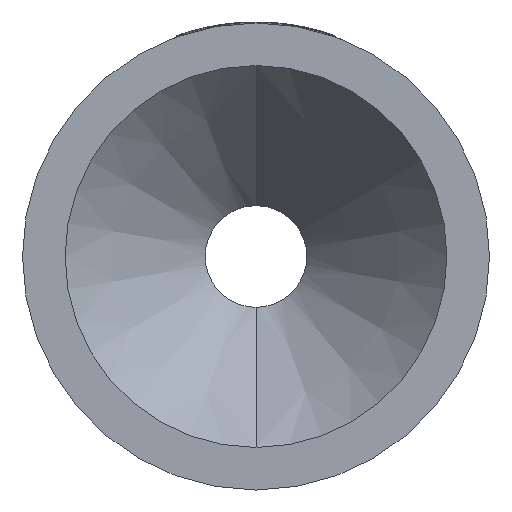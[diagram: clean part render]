
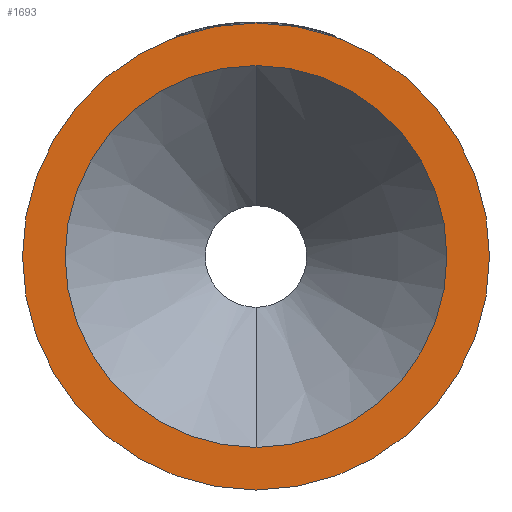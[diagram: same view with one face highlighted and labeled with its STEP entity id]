
A CAD part, left-side view. The second image highlights one B-rep face of the part: STEP entity #1693.
In plain terms, the highlighted planar face has unit normal (-1, 0, 0).
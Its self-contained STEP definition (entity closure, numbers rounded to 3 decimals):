
#95 = FACE_BOUND ( 'NONE', #1895, .T. ) ;
#183 = CARTESIAN_POINT ( 'NONE',  ( 0., 0., -112.5 ) ) ;
#236 = AXIS2_PLACEMENT_3D ( 'NONE', #3203, #3181, #3179 ) ;
#296 = CIRCLE ( 'NONE', #1349, 112.5 ) ;
#396 = CIRCLE ( 'NONE', #3370, 112.5 ) ;
#720 = AXIS2_PLACEMENT_3D ( 'NONE', #960, #1990, #3267 ) ;
#799 = ORIENTED_EDGE ( 'NONE', *, *, #1094, .T. ) ;
#880 = EDGE_LOOP ( 'NONE', ( #1912, #799 ) ) ;
#960 = CARTESIAN_POINT ( 'NONE',  ( 0., 0., 0. ) ) ;
#1094 = EDGE_CURVE ( 'NONE', #1860, #1568, #396, .T. ) ;
#1113 = VERTEX_POINT ( 'NONE', #1808 ) ;
#1349 = AXIS2_PLACEMENT_3D ( 'NONE', #1404, #1387, #1367 ) ;
#1367 = DIRECTION ( 'NONE',  ( 0., 0., 1. ) ) ;
#1387 = DIRECTION ( 'NONE',  ( -1., 0., 0. ) ) ;
#1404 = CARTESIAN_POINT ( 'NONE',  ( 0., 0., 0. ) ) ;
#1568 = VERTEX_POINT ( 'NONE', #3027 ) ;
#1693 = ADVANCED_FACE ( 'NONE', ( #95, #2767 ), #1803, .F. ) ;
#1725 = DIRECTION ( 'NONE',  ( 0., 0., -1. ) ) ;
#1737 = DIRECTION ( 'NONE',  ( 1., 0., 0. ) ) ;
#1742 = CARTESIAN_POINT ( 'NONE',  ( 0., 92., 0. ) ) ;
#1779 = DIRECTION ( 'NONE',  ( 0., 0., 1. ) ) ;
#1792 = DIRECTION ( 'NONE',  ( -1., 0., 0. ) ) ;
#1798 = CARTESIAN_POINT ( 'NONE',  ( 0., 0., 0. ) ) ;
#1803 = PLANE ( 'NONE',  #3504 ) ;
#1808 = CARTESIAN_POINT ( 'NONE',  ( 0., 0., -92. ) ) ;
#1860 = VERTEX_POINT ( 'NONE', #183 ) ;
#1895 = EDGE_LOOP ( 'NONE', ( #2791, #3358 ) ) ;
#1912 = ORIENTED_EDGE ( 'NONE', *, *, #1979, .T. ) ;
#1979 = EDGE_CURVE ( 'NONE', #1568, #1860, #296, .T. ) ;
#1990 = DIRECTION ( 'NONE',  ( -1., 0., 0. ) ) ;
#2031 = EDGE_CURVE ( 'NONE', #2339, #1113, #3313, .T. ) ;
#2224 = EDGE_CURVE ( 'NONE', #1113, #2339, #2717, .T. ) ;
#2339 = VERTEX_POINT ( 'NONE', #2825 ) ;
#2717 = CIRCLE ( 'NONE', #236, 92. ) ;
#2767 = FACE_OUTER_BOUND ( 'NONE', #880, .T. ) ;
#2791 = ORIENTED_EDGE ( 'NONE', *, *, #2031, .F. ) ;
#2825 = CARTESIAN_POINT ( 'NONE',  ( 0., 0., 92. ) ) ;
#3027 = CARTESIAN_POINT ( 'NONE',  ( 0., 0., 112.5 ) ) ;
#3179 = DIRECTION ( 'NONE',  ( 0., 0., 1. ) ) ;
#3181 = DIRECTION ( 'NONE',  ( -1., 0., 0. ) ) ;
#3203 = CARTESIAN_POINT ( 'NONE',  ( 0., 0., 0. ) ) ;
#3267 = DIRECTION ( 'NONE',  ( 0., 0., 1. ) ) ;
#3313 = CIRCLE ( 'NONE', #720, 92. ) ;
#3358 = ORIENTED_EDGE ( 'NONE', *, *, #2224, .F. ) ;
#3370 = AXIS2_PLACEMENT_3D ( 'NONE', #1798, #1792, #1779 ) ;
#3504 = AXIS2_PLACEMENT_3D ( 'NONE', #1742, #1737, #1725 ) ;
